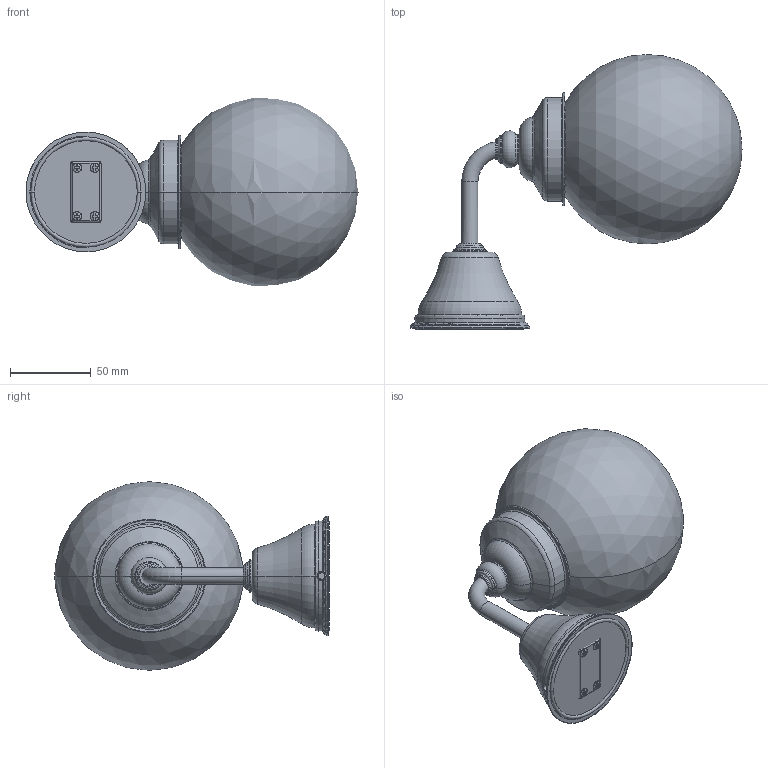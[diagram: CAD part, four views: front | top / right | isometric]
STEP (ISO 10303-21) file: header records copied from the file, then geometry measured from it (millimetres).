
FILE_DESCRIPTION((''),'2;1');
FILE_NAME('37302--','2026-10-14T09:54:55',('simi1'),(''),'CREO PARAMETRIC BY PTC INC, 2022244','CREO PARAMETRIC BY PTC INC, 2022244','');
FILE_SCHEMA(('CONFIG_CONTROL_DESIGN'));
Length unit declared in the file: millimetre
Products named in the file (1): 37302--
Bounding box: 205.13 x 169.81 x 116.44 mm (x, y, z)
Surface area: 81593.1 mm2 (no closed solid volume)
Topology: 0 solids, 17 shells, 166 faces, 436 edges, 279 vertices
Faces by surface type: plane 60, torus 54, cylinder 28, sphere 14, cone 8, bspline 2
Entity records: 5912 total; most frequent: CARTESIAN_POINT 1739, DIRECTION 977, ORIENTED_EDGE 768, EDGE_CURVE 434, AXIS2_PLACEMENT_3D 417, VERTEX_POINT 279, CIRCLE 253, EDGE_LOOP 166
